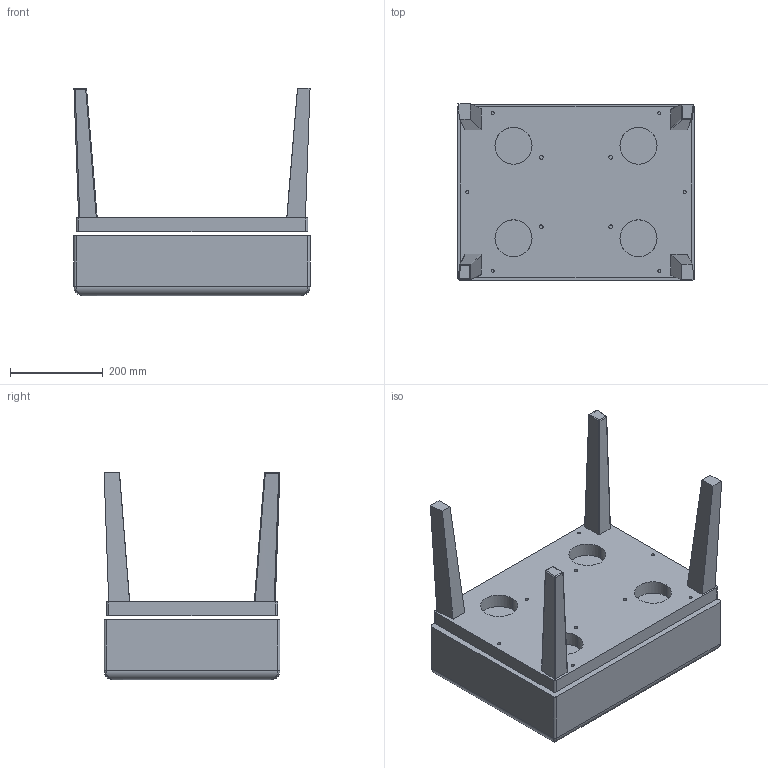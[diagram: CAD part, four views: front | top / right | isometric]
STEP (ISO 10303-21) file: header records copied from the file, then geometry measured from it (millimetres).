
FILE_DESCRIPTION(('CATIA V5 STEP Exchange','CAx-IF Rec.Pracs.--- Model Styling and Organization---1.4--- 2014-01-23'),'2;1');
FILE_NAME('C:\Users\Kutsm\Desktop\WING_Hocker\WING_Hocker.stp','2021-01-14T10:56:42+00:00',('none'),('none'),'CATIA Version 5-6 Release 2018 SP3 HF7','CATIA V5 STEP AP214','none');
FILE_SCHEMA(('AUTOMOTIVE_DESIGN { 1 0 10303 214 1 1 1 1 }'));
Length unit declared in the file: millimetre
Products named in the file (1): WING_HOCKER
Bounding box: 510 x 380 x 448 mm (x, y, z)
Volume: 31327383.1 mm3; surface area: 1595443.1 mm2
Topology: 10 solids, 10 shells, 256 faces, 701 edges, 466 vertices
Faces by surface type: cylinder 133, plane 77, bspline 24, cone 14, sphere 8
Entity records: 13295 total; most frequent: CARTESIAN_POINT 7684, ORIENTED_EDGE 1394, DIRECTION 700, EDGE_CURVE 697, VERTEX_POINT 466, EDGE_LOOP 311, AXIS2_PLACEMENT_3D 287, VECTOR 280
